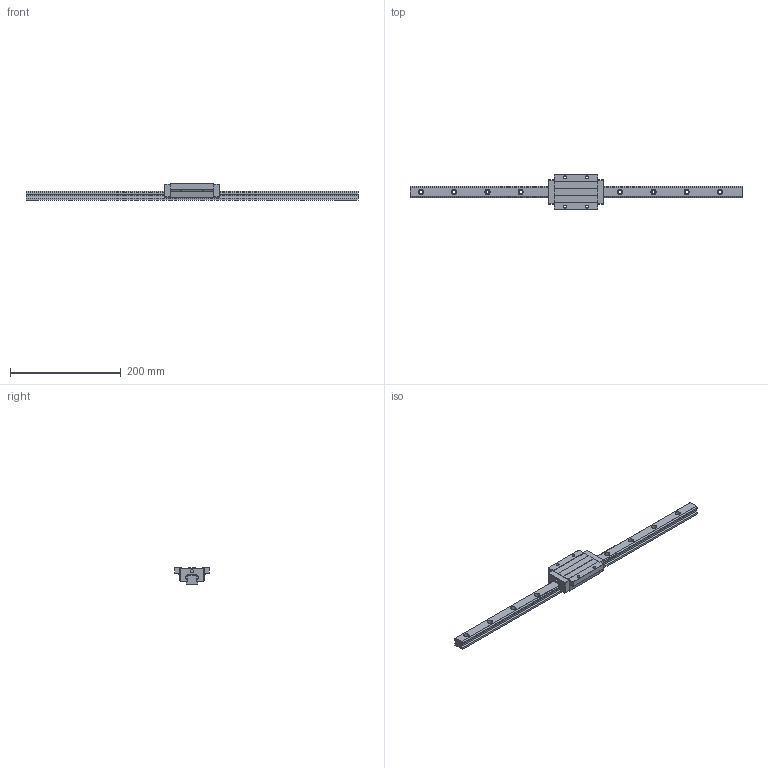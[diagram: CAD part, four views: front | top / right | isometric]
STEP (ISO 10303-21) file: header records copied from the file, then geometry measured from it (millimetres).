
FILE_DESCRIPTION(/* description */ (''),/* implementation_level */ '2;1');
FILE_NAME(/* name */ 'TRH20FE-XN.stp',/* time_stamp */ '2017-10-25T13:11:42+08:00',/* author */ (''),/* organization */ (''),/* preprocessor_version */ 'ST-DEVELOPER v11',/* originating_system */ 'SIEMENS UGS NX 6.0',/* authorisation */ '');
FILE_SCHEMA (('AUTOMOTIVE_DESIGN { 1 0 10303 214 1 1 1 1 }'));
Length unit declared in the file: millimetre
Products named in the file (1): TRH20FE-XN
Bounding box: 600 x 63 x 30 mm (x, y, z)
Volume: 267050.3 mm3; surface area: 70771.5 mm2
Topology: 2 solids, 2 shells, 142 faces, 371 edges, 236 vertices
Faces by surface type: plane 81, cylinder 57, sphere 4
Full cylindrical faces by diameter (mm): 5 x4, 6 x11, 9.5 x10
Entity records: 4213 total; most frequent: CARTESIAN_POINT 767, DIRECTION 722, ORIENTED_EDGE 656, EDGE_CURVE 328, AXIS2_PLACEMENT_3D 257, VERTEX_POINT 222, LINE 208, VECTOR 208
